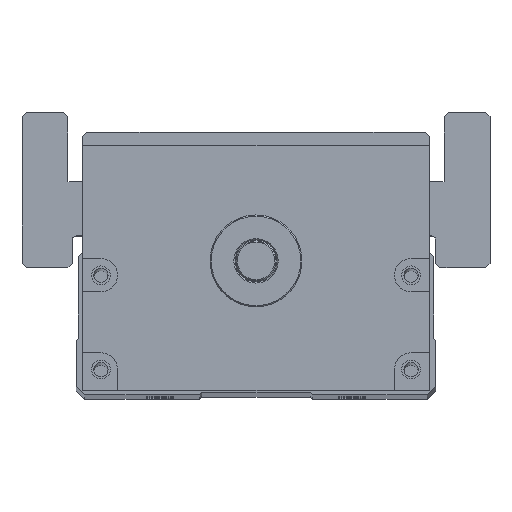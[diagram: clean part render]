
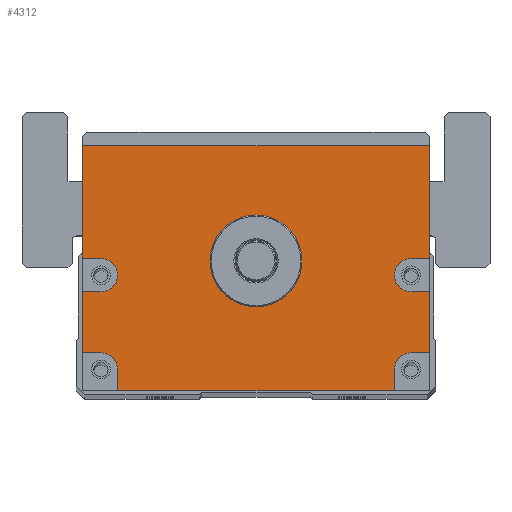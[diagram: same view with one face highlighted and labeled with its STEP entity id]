
A CAD part, top view. The second image highlights one B-rep face of the part: STEP entity #4312.
In plain terms, the highlighted planar face has unit normal (0, 0, 1).
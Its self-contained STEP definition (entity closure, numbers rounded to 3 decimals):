
#3657=FACE_BOUND('',#5954,.T.);
#3658=FACE_BOUND('',#5955,.T.);
#4312=ADVANCED_FACE('',(#3657,#3658),#4802,.T.);
#4802=PLANE('',#14836);
#5954=EDGE_LOOP('',(#9747,#9748,#9749,#9750,#9751,#9752,#9753,#9754,#9755,
#9756,#9757,#9758,#9759,#9760,#9761,#9762,#9763,#9764));
#5955=EDGE_LOOP('',(#9765));
#6825=LINE('',#21669,#7589);
#6827=LINE('',#21677,#7591);
#6828=LINE('',#21680,#7592);
#6829=LINE('',#21682,#7593);
#6830=LINE('',#21686,#7594);
#6831=LINE('',#21688,#7595);
#6832=LINE('',#21689,#7596);
#6833=LINE('',#21691,#7597);
#6834=LINE('',#21695,#7598);
#6835=LINE('',#21697,#7599);
#6836=LINE('',#21699,#7600);
#6837=LINE('',#21703,#7601);
#6838=LINE('',#21705,#7602);
#6839=LINE('',#21707,#7603);
#7589=VECTOR('',#17060,1.);
#7591=VECTOR('',#17068,1.);
#7592=VECTOR('',#17069,1.);
#7593=VECTOR('',#17070,1.);
#7594=VECTOR('',#17073,1.);
#7595=VECTOR('',#17074,1.);
#7596=VECTOR('',#17075,1.);
#7597=VECTOR('',#17076,1.);
#7598=VECTOR('',#17079,1.);
#7599=VECTOR('',#17080,1.);
#7600=VECTOR('',#17081,1.);
#7601=VECTOR('',#17084,1.);
#7602=VECTOR('',#17085,1.);
#7603=VECTOR('',#17086,1.);
#9747=ORIENTED_EDGE('',*,*,#13077,.F.);
#9748=ORIENTED_EDGE('',*,*,#13078,.T.);
#9749=ORIENTED_EDGE('',*,*,#13079,.F.);
#9750=ORIENTED_EDGE('',*,*,#13080,.F.);
#9751=ORIENTED_EDGE('',*,*,#13081,.F.);
#9752=ORIENTED_EDGE('',*,*,#13082,.T.);
#9753=ORIENTED_EDGE('',*,*,#13073,.T.);
#9754=ORIENTED_EDGE('',*,*,#13083,.T.);
#9755=ORIENTED_EDGE('',*,*,#13084,.F.);
#9756=ORIENTED_EDGE('',*,*,#13085,.F.);
#9757=ORIENTED_EDGE('',*,*,#13086,.F.);
#9758=ORIENTED_EDGE('',*,*,#13087,.T.);
#9759=ORIENTED_EDGE('',*,*,#13088,.F.);
#9760=ORIENTED_EDGE('',*,*,#13089,.F.);
#9761=ORIENTED_EDGE('',*,*,#13090,.F.);
#9762=ORIENTED_EDGE('',*,*,#13091,.T.);
#9763=ORIENTED_EDGE('',*,*,#13092,.F.);
#9764=ORIENTED_EDGE('',*,*,#13093,.F.);
#9765=ORIENTED_EDGE('',*,*,#13059,.T.);
#11674=VERTEX_POINT('',#21640);
#11687=VERTEX_POINT('',#21668);
#11688=VERTEX_POINT('',#21670);
#11691=VERTEX_POINT('',#21678);
#11692=VERTEX_POINT('',#21679);
#11693=VERTEX_POINT('',#21681);
#11694=VERTEX_POINT('',#21683);
#11695=VERTEX_POINT('',#21685);
#11696=VERTEX_POINT('',#21687);
#11697=VERTEX_POINT('',#21690);
#11698=VERTEX_POINT('',#21692);
#11699=VERTEX_POINT('',#21694);
#11700=VERTEX_POINT('',#21696);
#11701=VERTEX_POINT('',#21698);
#11702=VERTEX_POINT('',#21700);
#11703=VERTEX_POINT('',#21702);
#11704=VERTEX_POINT('',#21704);
#11705=VERTEX_POINT('',#21706);
#11706=VERTEX_POINT('',#21708);
#13059=EDGE_CURVE('',#11674,#11674,#13970,.T.);
#13073=EDGE_CURVE('',#11688,#11687,#6825,.T.);
#13077=EDGE_CURVE('',#11691,#11692,#6827,.T.);
#13078=EDGE_CURVE('',#11691,#11693,#6828,.T.);
#13079=EDGE_CURVE('',#11694,#11693,#6829,.T.);
#13080=EDGE_CURVE('',#11695,#11694,#13981,.T.);
#13081=EDGE_CURVE('',#11696,#11695,#6830,.T.);
#13082=EDGE_CURVE('',#11696,#11688,#6831,.T.);
#13083=EDGE_CURVE('',#11687,#11697,#6832,.T.);
#13084=EDGE_CURVE('',#11698,#11697,#6833,.T.);
#13085=EDGE_CURVE('',#11699,#11698,#13982,.T.);
#13086=EDGE_CURVE('',#11700,#11699,#6834,.T.);
#13087=EDGE_CURVE('',#11700,#11701,#6835,.T.);
#13088=EDGE_CURVE('',#11702,#11701,#6836,.T.);
#13089=EDGE_CURVE('',#11703,#11702,#13983,.T.);
#13090=EDGE_CURVE('',#11704,#11703,#6837,.T.);
#13091=EDGE_CURVE('',#11704,#11705,#6838,.T.);
#13092=EDGE_CURVE('',#11706,#11705,#6839,.T.);
#13093=EDGE_CURVE('',#11692,#11706,#13984,.T.);
#13970=CIRCLE('',#14818,11.);
#13981=CIRCLE('',#14832,4.);
#13982=CIRCLE('',#14833,4.);
#13983=CIRCLE('',#14834,4.);
#13984=CIRCLE('',#14835,4.);
#14818=AXIS2_PLACEMENT_3D('',#21639,#17033,#17034);
#14832=AXIS2_PLACEMENT_3D('',#21684,#17071,#17072);
#14833=AXIS2_PLACEMENT_3D('',#21693,#17077,#17078);
#14834=AXIS2_PLACEMENT_3D('',#21701,#17082,#17083);
#14835=AXIS2_PLACEMENT_3D('',#21709,#17087,#17088);
#14836=AXIS2_PLACEMENT_3D('',#21710,#17089,#17090);
#17033=DIRECTION('',(0.,0.,-1.));
#17034=DIRECTION('',(1.,0.,0.));
#17060=DIRECTION('',(-1.,0.,0.));
#17068=DIRECTION('',(-1.,0.,0.));
#17069=DIRECTION('',(0.,1.,0.));
#17070=DIRECTION('',(1.,0.,0.));
#17071=DIRECTION('',(0.,0.,1.));
#17072=DIRECTION('',(1.,0.,0.));
#17073=DIRECTION('',(-1.,0.,0.));
#17074=DIRECTION('',(0.,1.,0.));
#17075=DIRECTION('',(0.,-1.,0.));
#17076=DIRECTION('',(-1.,0.,0.));
#17077=DIRECTION('',(0.,0.,1.));
#17078=DIRECTION('',(1.,0.,0.));
#17079=DIRECTION('',(1.,0.,0.));
#17080=DIRECTION('',(0.,-1.,0.));
#17081=DIRECTION('',(-1.,0.,0.));
#17082=DIRECTION('',(0.,0.,1.));
#17083=DIRECTION('',(1.,0.,0.));
#17084=DIRECTION('',(0.,1.,0.));
#17085=DIRECTION('',(1.,0.,0.));
#17086=DIRECTION('',(0.,-1.,0.));
#17087=DIRECTION('',(0.,0.,1.));
#17088=DIRECTION('',(1.,0.,0.));
#17089=DIRECTION('',(0.,0.,1.));
#17090=DIRECTION('',(1.,0.,0.));
#21639=CARTESIAN_POINT('',(300.,0.,482.5));
#21640=CARTESIAN_POINT('',(311.,0.,482.5));
#21668=CARTESIAN_POINT('',(258.5,27.5,482.5));
#21669=CARTESIAN_POINT('',(341.5,27.5,482.5));
#21670=CARTESIAN_POINT('',(341.5,27.5,482.5));
#21677=CARTESIAN_POINT('',(341.5,-22.,482.5));
#21678=CARTESIAN_POINT('',(341.5,-22.,482.5));
#21679=CARTESIAN_POINT('',(337.115,-22.,482.5));
#21680=CARTESIAN_POINT('',(341.5,-31.,482.5));
#21681=CARTESIAN_POINT('',(341.5,-7.431,482.5));
#21682=CARTESIAN_POINT('',(341.5,-7.431,482.5));
#21683=CARTESIAN_POINT('',(337.115,-7.431,482.5));
#21684=CARTESIAN_POINT('',(337.115,-3.431,482.5));
#21685=CARTESIAN_POINT('',(337.115,0.569,482.5));
#21686=CARTESIAN_POINT('',(341.5,0.569,482.5));
#21687=CARTESIAN_POINT('',(341.5,0.569,482.5));
#21688=CARTESIAN_POINT('',(341.5,-31.,482.5));
#21689=CARTESIAN_POINT('',(258.5,27.5,482.5));
#21690=CARTESIAN_POINT('',(258.5,0.569,482.5));
#21691=CARTESIAN_POINT('',(341.5,0.569,482.5));
#21692=CARTESIAN_POINT('',(262.885,0.569,482.5));
#21693=CARTESIAN_POINT('',(262.885,-3.431,482.5));
#21694=CARTESIAN_POINT('',(262.885,-7.431,482.5));
#21695=CARTESIAN_POINT('',(341.5,-7.431,482.5));
#21696=CARTESIAN_POINT('',(258.5,-7.431,482.5));
#21697=CARTESIAN_POINT('',(258.5,27.5,482.5));
#21698=CARTESIAN_POINT('',(258.5,-22.,482.5));
#21699=CARTESIAN_POINT('',(341.5,-22.,482.5));
#21700=CARTESIAN_POINT('',(262.885,-22.,482.5));
#21701=CARTESIAN_POINT('',(262.885,-26.,482.5));
#21702=CARTESIAN_POINT('',(266.885,-26.,482.5));
#21703=CARTESIAN_POINT('',(266.885,-31.,482.5));
#21704=CARTESIAN_POINT('',(266.885,-31.,482.5));
#21705=CARTESIAN_POINT('',(258.5,-31.,482.5));
#21706=CARTESIAN_POINT('',(333.115,-31.,482.5));
#21707=CARTESIAN_POINT('',(333.115,-31.,482.5));
#21708=CARTESIAN_POINT('',(333.115,-26.,482.5));
#21709=CARTESIAN_POINT('',(337.115,-26.,482.5));
#21710=CARTESIAN_POINT('',(341.5,-31.,482.5));
